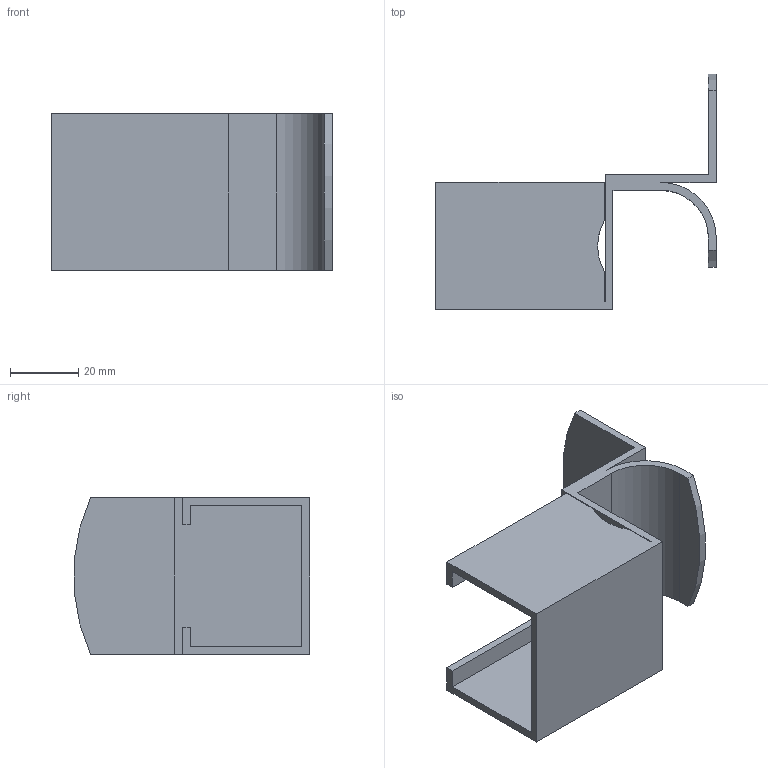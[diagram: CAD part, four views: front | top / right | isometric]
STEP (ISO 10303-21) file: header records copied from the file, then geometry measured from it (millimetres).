
FILE_DESCRIPTION (( 'STEP AP214' ), '1' );
FILE_NAME ('JB-502.step', '2023-12-26T01:20:05', ( 'catia' ), ( 'HP Inc.' ), 'SwSTEP 2.0', 'SolidWorks 2021', '' );
FILE_SCHEMA (( 'AUTOMOTIVE_DESIGN' ));
Length unit declared in the file: millimetre
Products named in the file (1): JB-502
Bounding box: 82.3 x 69.1 x 46 mm (x, y, z)
Volume: 29540.3 mm3; surface area: 25849.5 mm2
Topology: 1 solids, 1 shells, 32 faces, 90 edges, 60 vertices
Faces by surface type: plane 26, cylinder 6
Entity records: 1060 total; most frequent: CARTESIAN_POINT 183, ORIENTED_EDGE 180, DIRECTION 168, EDGE_CURVE 90, VECTOR 78, LINE 78, VERTEX_POINT 60, AXIS2_PLACEMENT_3D 45
